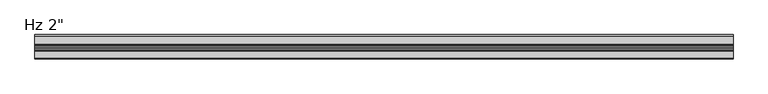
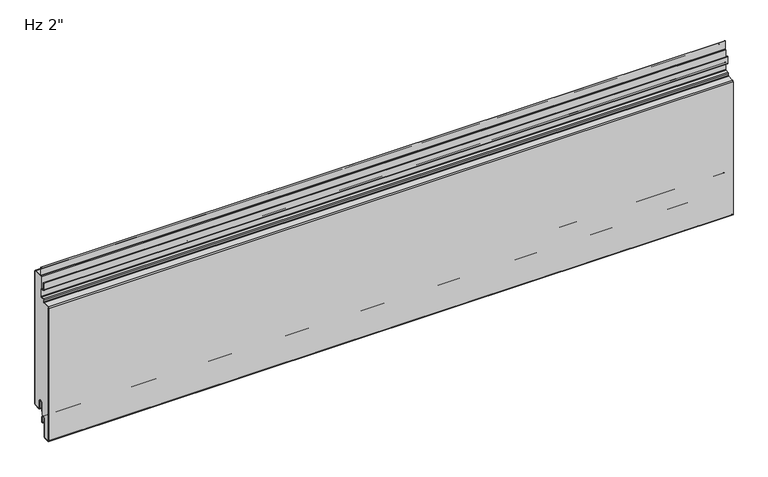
"""IFC4 building model written with IfcOpenShell, lengths in millimetres: plate geometry."""

from ifc_helpers import new_model, si_unit, point, frame, frame_2d, origin, place, context, project, spatial, polyline, circle_curve, ellipse_curve, trimmed, segment, composite_curve, outline, extrude, source, transform, mapped, element, save
from ifc_brep_helpers import plane_surface, cylinder_surface, revolved_surface, extruded_surface, advanced_brep


def plate_fc1f2779(model_context):
    return source(origin(), model_context, "Body", "SolidModel", [
        extrude(outline(composite_curve([segment(polyline([(-22.8125, 259.7620957), (-22.8125, 303.00625), (-2.38125, 303.00625)]), True, "CONTINUOUS"), segment(trimmed(circle_curve(frame_2d((-2.38125, 301.625)), 1.38125), [point((-2.38125, 303.00625))], [point((-1.0, 301.625))], False, "CARTESIAN"), True, "CONTINUOUS"), segment(polyline([(-1.0, 301.625), (-1.0, 3.175)]), True, "CONTINUOUS"), segment(trimmed(circle_curve(frame_2d((-2.38125, 3.175)), 1.38125), [point((-1.0, 3.175))], [point((-2.38125, 1.79375))], False, "CARTESIAN"), True, "CONTINUOUS"), segment(polyline([(-2.38125, 1.79375), (-15.08125, 1.79375)]), True, "CONTINUOUS"), segment(trimmed(circle_curve(frame_2d((-15.08125, 3.175)), 1.38125), [point((-15.08125, 1.79375))], [point((-16.4625, 3.175))], False, "CARTESIAN"), True, "CONTINUOUS"), segment(polyline([(-16.4625, 3.175), (-16.4625, 19.05)]), True, "CONTINUOUS"), segment(trimmed(circle_curve(frame_2d((-21.43125, 19.05)), 4.96875), [point((-16.4625, 19.05))], [point((-26.4, 19.05))], True, "CARTESIAN"), True, "CONTINUOUS"), segment(polyline([(-26.4, 19.05), (-26.4, -6.9375), (-30.95625, -6.9375)]), True, "CONTINUOUS"), segment(trimmed(circle_curve(frame_2d((-30.95625, -11.90625)), 4.96875), [point((-30.95625, -6.9375))], [point((-35.925, -11.90625))], True, "CARTESIAN"), True, "CONTINUOUS"), segment(polyline([(-35.925, -11.90625), (-35.925, -50.0895546)]), True, "CONTINUOUS"), segment(trimmed(circle_curve(frame_2d((-37.30625, -50.0895546)), 1.38125), [point((-35.925, -50.0895546))], [point((-37.233961, -51.4689117))], False, "CARTESIAN"), True, "CONTINUOUS"), segment(polyline([(-37.233961, -51.4689117), (-48.346461, -52.0512931)]), True, "CONTINUOUS"), segment(trimmed(circle_curve(frame_2d((-48.41875, -50.6719361)), 1.38125), [point((-48.346461, -52.0512931))], [point((-49.8, -50.6719361))], False, "CARTESIAN"), True, "CONTINUOUS"), segment(polyline([(-49.8, -50.6719361), (-49.8, 247.7572607)]), True, "CONTINUOUS"), segment(trimmed(circle_curve(frame_2d((-48.41875, 247.7572607)), 1.38125), [point((-49.8, 247.7572607))], [point((-48.491039, 249.1366177))], False, "CARTESIAN"), True, "CONTINUOUS"), segment(polyline([(-48.491039, 249.1366177), (-34.7895807, 249.8546807)]), True, "CONTINUOUS"), segment(trimmed(circle_curve(frame_2d((-34.925, 252.4386347)), 2.5875), [point((-34.7895807, 249.8546807))], [point((-32.3375, 252.4386347))], True, "CARTESIAN"), True, "CONTINUOUS"), segment(polyline([(-32.3375, 252.4386347), (-32.3375, 255.4967085)]), True, "CONTINUOUS"), segment(trimmed(circle_curve(frame_2d((-30.95625, 255.4967085)), 1.38125), [point((-32.3375, 255.4967085))], [point((-31.028539, 256.8760655))], False, "CARTESIAN"), True, "CONTINUOUS"), segment(polyline([(-31.028539, 256.8760655), (-25.2645807, 257.1781418)]), True, "CONTINUOUS"), segment(trimmed(circle_curve(frame_2d((-25.4, 259.7620957)), 2.5875), [point((-25.2645807, 257.1781418))], [point((-22.8125, 259.7620957))], True, "CARTESIAN"), True, "CONTINUOUS")], self_intersect=False)), frame((-730.0, 0.0, 0.0), z_axis=(1.0, 0.0, 0.0), x_axis=(0.0, 1.0, 0.0)), (0.0, 0.0, 1.0), 1460.0),
        extrude(outline(composite_curve([segment(polyline([(-25.4, 0.79375), (-26.4, 0.79375), (-26.4, 19.05)]), True, "CONTINUOUS"), segment(trimmed(circle_curve(frame_2d((-21.43125, 19.05)), 4.96875), [point((-26.4, 19.05))], [point((-16.4625, 19.05))], False, "CARTESIAN"), True, "CONTINUOUS"), segment(polyline([(-16.4625, 19.05), (-16.4625, 3.175)]), True, "CONTINUOUS"), segment(trimmed(circle_curve(frame_2d((-15.08125, 3.175)), 1.38125), [point((-16.4625, 3.175))], [point((-15.08125, 1.79375))], True, "CARTESIAN"), True, "CONTINUOUS"), segment(polyline([(-15.08125, 1.79375), (-2.38125, 1.79375)]), True, "CONTINUOUS"), segment(trimmed(circle_curve(frame_2d((-2.38125, 3.175)), 1.38125), [point((-2.38125, 1.79375))], [point((-1.0, 3.175))], True, "CARTESIAN"), True, "CONTINUOUS"), segment(polyline([(-1.0, 3.175), (-1.0, 301.625)]), True, "CONTINUOUS"), segment(trimmed(circle_curve(frame_2d((-2.38125, 301.625)), 1.38125), [point((-1.0, 301.625))], [point((-2.38125, 303.00625))], True, "CARTESIAN"), True, "CONTINUOUS"), segment(polyline([(-2.38125, 303.00625), (-19.446875, 303.00625)]), True, "CONTINUOUS"), segment(trimmed(circle_curve(frame_2d((-19.446875, 305.59375)), 2.5875), [point((-19.446875, 303.00625))], [point((-22.034375, 305.59375))], False, "CARTESIAN"), True, "CONTINUOUS"), segment(polyline([(-22.034375, 305.59375), (-22.034375, 323.05625), (-21.034375, 323.05625), (-21.034375, 305.59375)]), True, "CONTINUOUS"), segment(trimmed(circle_curve(frame_2d((-19.446875, 305.59375)), 1.5875), [point((-21.034375, 305.59375))], [point((-19.446875, 304.00625))], True, "CARTESIAN"), True, "CONTINUOUS"), segment(polyline([(-19.446875, 304.00625), (-2.38125, 304.00625)]), True, "CONTINUOUS"), segment(trimmed(circle_curve(frame_2d((-2.38125, 301.625)), 2.38125), [point((-2.38125, 304.00625))], [point((0.0, 301.625))], False, "CARTESIAN"), True, "CONTINUOUS"), segment(polyline([(0.0, 301.625), (0.0, 3.175)]), True, "CONTINUOUS"), segment(trimmed(circle_curve(frame_2d((-2.38125, 3.175)), 2.38125), [point((0.0, 3.175))], [point((-2.38125, 0.79375))], False, "CARTESIAN"), True, "CONTINUOUS"), segment(polyline([(-2.38125, 0.79375), (-15.08125, 0.79375)]), True, "CONTINUOUS"), segment(trimmed(circle_curve(frame_2d((-15.08125, 3.175)), 2.38125), [point((-15.08125, 0.79375))], [point((-17.4625, 3.175))], False, "CARTESIAN"), True, "CONTINUOUS"), segment(polyline([(-17.4625, 3.175), (-17.4625, 19.05)]), True, "CONTINUOUS"), segment(trimmed(circle_curve(frame_2d((-21.43125, 19.05)), 3.96875), [point((-17.4625, 19.05))], [point((-25.4, 19.05))], True, "CARTESIAN"), True, "CONTINUOUS"), segment(polyline([(-25.4, 19.05), (-25.4, 0.79375)]), True, "CONTINUOUS")], self_intersect=False)), frame((-730.0, 0.0, 0.0), z_axis=(1.0, 0.0, 0.0), x_axis=(0.0, 1.0, 0.0)), (0.0, 0.0, 1.0), 1460.0),
        advanced_brep(
        [(-730.0, -25.4, -23.2314549), (-730.0, -26.9875, -23.2314549), (-730.0, -26.9875, -11.9205174), (-730.0, -34.925, -11.9205174), (-730.0, -34.925, -50.1038221), (-730.0, -37.181625, -52.4818086), (-730.0, -48.294125, -53.0641901), (-730.0, -50.8, -50.6862035), (-730.0, -50.8, 247.7572607), (-730.0, -48.543375, 250.1352473), (-730.0, -34.8419167, 250.8533103), (-730.0, -33.3375, 252.4386347), (-730.0, -33.3375, 255.4824411), (-730.0, -31.080875, 257.8604276), (-730.0, -25.3169167, 258.1625039), (-730.0, -23.8125, 259.7478283), (-730.0, -23.8125, 274.6232326), (-730.0, -25.4, 276.2107326), (-730.0, -29.5671875, 276.2107326), (-730.0, -31.9484375, 278.5919826), (-730.0, -31.9484375, 293.0836032), (-730.0, -30.1546875, 293.0836032), (-730.0, -30.1546875, 283.3544826), (-730.0, -30.9484375, 283.3544826), (-730.0, -30.9484375, 278.5919826), (-730.0, -29.5671875, 277.2107326), (-730.0, -25.4, 277.2107326), (-730.0, -22.8125, 274.6232326), (-730.0, -22.8125, 259.7478283), (-730.0, -25.2645807, 257.1638744), (-730.0, -31.028539, 256.8617981), (-730.0, -32.3375, 255.4824411), (-730.0, -32.3375, 252.4386347), (-730.0, -34.7895807, 249.8546807), (-730.0, -48.491039, 249.1366177), (-730.0, -49.8, 247.7572607), (-730.0, -49.8, -50.6862035), (-730.0, -48.346461, -52.0655606), (-730.0, -37.233961, -51.4831791), (-730.0, -35.925, -50.1038221), (-730.0, -35.925, -11.9205174), (-730.0, -25.9875, -11.9205174), (-730.0, -26.19375, -13.5080174), (-730.0, -25.4, -13.5080174), (730.0, -25.4, -23.2314549), (730.0, -25.4, -13.5080174), (730.0, -26.19375, -13.5080174), (730.0, -25.9875, -11.9205174), (730.0, -35.925, -11.9205174), (730.0, -35.925, -50.1038221), (730.0, -37.233961, -51.4831791), (730.0, -48.346461, -52.0655606), (730.0, -49.8, -50.6862035), (730.0, -49.8, 247.7572607), (730.0, -48.491039, 249.1366177), (730.0, -34.7895807, 249.8546807), (730.0, -32.3375, 252.4386347), (730.0, -32.3375, 255.4824411), (730.0, -31.028539, 256.8617981), (730.0, -25.2645807, 257.1638744), (730.0, -22.8125, 259.7478283), (730.0, -22.8125, 274.6232326), (730.0, -25.4, 277.2107326), (730.0, -29.5671875, 277.2107326), (730.0, -30.9484375, 278.5919826), (730.0, -30.9484375, 283.3544826), (730.0, -30.1546875, 283.3544826), (730.0, -30.1546875, 293.0836032), (730.0, -31.9484375, 293.0836032), (730.0, -31.9484375, 278.5919826), (730.0, -29.5671875, 276.2107326), (730.0, -25.4, 276.2107326), (730.0, -23.8125, 274.6232326), (730.0, -23.8125, 259.7478283), (730.0, -25.3169167, 258.1625039), (730.0, -31.080875, 257.8604276), (730.0, -33.3375, 255.4824411), (730.0, -33.3375, 252.4386347), (730.0, -34.8419167, 250.8533103), (730.0, -48.543375, 250.1352473), (730.0, -50.8, 247.7572607), (730.0, -50.8, -50.6862035), (730.0, -48.294125, -53.0641901), (730.0, -37.181625, -52.4818086), (730.0, -34.925, -50.1038221), (730.0, -34.925, -11.9205174), (730.0, -26.9875, -11.9205174), (730.0, -26.9875, -23.2314549)],
        [
            (0, 1, circle_curve(frame((-730.0, -26.19375, -23.2314549), z_axis=(-1.0, 0.0, 0.0), x_axis=(0.0, 0.0, -1.0)), 0.79375)),
            (1, 2),
            (2, 3, circle_curve(frame((-730.0, -30.95625, -11.9205174), z_axis=(1.0, 0.0, 0.0), x_axis=(0.0, 0.0, -1.0)), 3.96875)),
            (3, 4),
            (4, 5, circle_curve(frame((-730.0, -37.30625, -50.1038221), z_axis=(-1.0, 0.0, 0.0), x_axis=(0.0, 0.0, -1.0)), 2.38125)),
            (5, 6),
            (6, 7, circle_curve(frame((-730.0, -48.41875, -50.6862035), z_axis=(-1.0, 0.0, 0.0), x_axis=(0.0, 0.0, -1.0)), 2.38125)),
            (7, 8),
            (8, 9, circle_curve(frame((-730.0, -48.41875, 247.7572607), z_axis=(-1.0, 0.0, 0.0), x_axis=(0.0, 0.0, -1.0)), 2.38125)),
            (9, 10),
            (10, 11, circle_curve(frame((-730.0, -34.925, 252.4386347), z_axis=(1.0, 0.0, 0.0), x_axis=(0.0, 0.0, -1.0)), 1.5875)),
            (11, 12),
            (12, 13, circle_curve(frame((-730.0, -30.95625, 255.4824411), z_axis=(-1.0, 0.0, 0.0), x_axis=(0.0, 0.0, -1.0)), 2.38125)),
            (13, 14),
            (14, 15, circle_curve(frame((-730.0, -25.4, 259.7478283), z_axis=(1.0, 0.0, 0.0), x_axis=(0.0, 0.0, -1.0)), 1.5875)),
            (15, 16),
            (16, 17, circle_curve(frame((-730.0, -25.4, 274.6232326), z_axis=(1.0, 0.0, 0.0), x_axis=(0.0, 0.0, -1.0)), 1.5875)),
            (17, 18),
            (18, 19, circle_curve(frame((-730.0, -29.5671875, 278.5919826), z_axis=(-1.0, 0.0, 0.0), x_axis=(0.0, 0.0, -1.0)), 2.38125)),
            (19, 20),
            (20, 21, ellipse_curve(frame((-730.0, -31.0515625, 293.0836032), z_axis=(-1.0, 0.0, 0.0), x_axis=(0.0, 1.0, 0.0)), 0.896875, 0.7852275)),
            (21, 22),
            (22, 23),
            (23, 24),
            (24, 25, circle_curve(frame((-730.0, -29.5671875, 278.5919826), z_axis=(1.0, 0.0, 0.0), x_axis=(0.0, 0.0, -1.0)), 1.38125)),
            (25, 26),
            (26, 27, circle_curve(frame((-730.0, -25.4, 274.6232326), z_axis=(-1.0, 0.0, 0.0), x_axis=(0.0, 0.0, -1.0)), 2.5875)),
            (27, 28),
            (28, 29, circle_curve(frame((-730.0, -25.4, 259.7478283), z_axis=(-1.0, 0.0, 0.0), x_axis=(0.0, 0.0, -1.0)), 2.5875)),
            (29, 30),
            (30, 31, circle_curve(frame((-730.0, -30.95625, 255.4824411), z_axis=(1.0, 0.0, 0.0), x_axis=(0.0, 0.0, -1.0)), 1.38125)),
            (31, 32),
            (32, 33, circle_curve(frame((-730.0, -34.925, 252.4386347), z_axis=(-1.0, 0.0, 0.0), x_axis=(0.0, 0.0, -1.0)), 2.5875)),
            (33, 34),
            (34, 35, circle_curve(frame((-730.0, -48.41875, 247.7572607), z_axis=(1.0, 0.0, 0.0), x_axis=(0.0, 0.0, -1.0)), 1.38125)),
            (35, 36),
            (36, 37, circle_curve(frame((-730.0, -48.41875, -50.6862035), z_axis=(1.0, 0.0, 0.0), x_axis=(0.0, 0.0, -1.0)), 1.38125)),
            (37, 38),
            (38, 39, circle_curve(frame((-730.0, -37.30625, -50.1038221), z_axis=(1.0, 0.0, 0.0), x_axis=(0.0, 0.0, -1.0)), 1.38125)),
            (39, 40),
            (40, 41, circle_curve(frame((-730.0, -30.95625, -11.9205174), z_axis=(-1.0, 0.0, 0.0), x_axis=(0.0, 0.0, -1.0)), 4.96875)),
            (41, 42),
            (42, 43),
            (43, 0),
            (44, 45),
            (45, 46),
            (46, 47),
            (47, 48, circle_curve(frame((730.0, -30.95625, -11.9205174), z_axis=(1.0, 0.0, 0.0), x_axis=(0.0, 0.0, -1.0)), 4.96875)),
            (48, 49),
            (49, 50, circle_curve(frame((730.0, -37.30625, -50.1038221), z_axis=(-1.0, 0.0, 0.0), x_axis=(0.0, 0.0, -1.0)), 1.38125)),
            (50, 51),
            (51, 52, circle_curve(frame((730.0, -48.41875, -50.6862035), z_axis=(-1.0, 0.0, 0.0), x_axis=(0.0, 0.0, -1.0)), 1.38125)),
            (52, 53),
            (53, 54, circle_curve(frame((730.0, -48.41875, 247.7572607), z_axis=(-1.0, 0.0, 0.0), x_axis=(0.0, 0.0, -1.0)), 1.38125)),
            (54, 55),
            (55, 56, circle_curve(frame((730.0, -34.925, 252.4386347), z_axis=(1.0, 0.0, 0.0), x_axis=(0.0, 0.0, -1.0)), 2.5875)),
            (56, 57),
            (57, 58, circle_curve(frame((730.0, -30.95625, 255.4824411), z_axis=(-1.0, 0.0, 0.0), x_axis=(0.0, 0.0, -1.0)), 1.38125)),
            (58, 59),
            (59, 60, circle_curve(frame((730.0, -25.4, 259.7478283), z_axis=(1.0, 0.0, 0.0), x_axis=(0.0, 0.0, -1.0)), 2.5875)),
            (60, 61),
            (61, 62, circle_curve(frame((730.0, -25.4, 274.6232326), z_axis=(1.0, 0.0, 0.0), x_axis=(0.0, 0.0, -1.0)), 2.5875)),
            (62, 63),
            (63, 64, circle_curve(frame((730.0, -29.5671875, 278.5919826), z_axis=(-1.0, 0.0, 0.0), x_axis=(0.0, 0.0, -1.0)), 1.38125)),
            (64, 65),
            (65, 66),
            (66, 67),
            (67, 68, ellipse_curve(frame((730.0, -31.0515625, 293.0836032), z_axis=(1.0, 0.0, 0.0), x_axis=(0.0, 1.0, 0.0)), 0.896875, 0.7852275)),
            (68, 69),
            (69, 70, circle_curve(frame((730.0, -29.5671875, 278.5919826), z_axis=(1.0, 0.0, 0.0), x_axis=(0.0, 0.0, -1.0)), 2.38125)),
            (70, 71),
            (71, 72, circle_curve(frame((730.0, -25.4, 274.6232326), z_axis=(-1.0, 0.0, 0.0), x_axis=(0.0, 0.0, -1.0)), 1.5875)),
            (72, 73),
            (73, 74, circle_curve(frame((730.0, -25.4, 259.7478283), z_axis=(-1.0, 0.0, 0.0), x_axis=(0.0, 0.0, -1.0)), 1.5875)),
            (74, 75),
            (75, 76, circle_curve(frame((730.0, -30.95625, 255.4824411), z_axis=(1.0, 0.0, 0.0), x_axis=(0.0, 0.0, -1.0)), 2.38125)),
            (76, 77),
            (77, 78, circle_curve(frame((730.0, -34.925, 252.4386347), z_axis=(-1.0, 0.0, 0.0), x_axis=(0.0, 0.0, -1.0)), 1.5875)),
            (78, 79),
            (79, 80, circle_curve(frame((730.0, -48.41875, 247.7572607), z_axis=(1.0, 0.0, 0.0), x_axis=(0.0, 0.0, -1.0)), 2.38125)),
            (80, 81),
            (81, 82, circle_curve(frame((730.0, -48.41875, -50.6862035), z_axis=(1.0, 0.0, 0.0), x_axis=(0.0, 0.0, -1.0)), 2.38125)),
            (82, 83),
            (83, 84, circle_curve(frame((730.0, -37.30625, -50.1038221), z_axis=(1.0, 0.0, 0.0), x_axis=(0.0, 0.0, -1.0)), 2.38125)),
            (84, 85),
            (85, 86, circle_curve(frame((730.0, -30.95625, -11.9205174), z_axis=(-1.0, 0.0, 0.0), x_axis=(0.0, 0.0, -1.0)), 3.96875)),
            (86, 87),
            (87, 44, circle_curve(frame((730.0, -26.19375, -23.2314549), z_axis=(1.0, 0.0, 0.0), x_axis=(0.0, 0.0, -1.0)), 0.79375)),
            (36, 52),
            (51, 37),
            (50, 38),
            (49, 39),
            (48, 40),
            (47, 41),
            (42, 46),
            (45, 43),
            (22, 66),
            (65, 23),
            (21, 67),
            (20, 68),
            (34, 54),
            (53, 35),
            (32, 56),
            (55, 33),
            (30, 58),
            (57, 31),
            (28, 60),
            (59, 29),
            (24, 64),
            (63, 25),
            (26, 62),
            (61, 27),
            (19, 69),
            (17, 71),
            (70, 18),
            (15, 73),
            (72, 16),
            (13, 75),
            (74, 14),
            (11, 77),
            (76, 12),
            (9, 79),
            (78, 10),
            (7, 81),
            (80, 8),
            (5, 83),
            (82, 6),
            (3, 85),
            (84, 4),
            (1, 87),
            (86, 2),
            (44, 0),
        ],
        [
            plane_surface(frame((-730.0, -50.8, 152.4), z_axis=(-1.0, 0.0, 0.0), x_axis=(0.0, -1.0, 0.0))),
            plane_surface(frame((730.0, -50.8, 152.4), z_axis=(1.0, 0.0, 0.0), x_axis=(0.0, -1.0, 0.0))),
            revolved_surface(polyline([(730.0, -48.41875, -52.0674535), (-730.0, -48.41875, -52.0674535)]), (-730.0, -48.41875, -50.6862035), (1.0, 0.0, 0.0)),
            plane_surface(frame((-730.0, -37.233961, -51.4831791), z_axis=(0.0, -0.05233595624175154, 0.9986295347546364), x_axis=(1.0, 0.0, 0.0))),
            revolved_surface(polyline([(730.0, -37.30625, -51.485072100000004), (-730.0, -37.30625, -51.485072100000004)]), (-730.0, -37.30625, -50.1038221), (1.0, 0.0, 0.0)),
            plane_surface(frame((-730.0, -35.925, -11.9205174), z_axis=(0.0, -1.0, 0.0), x_axis=(1.0, 0.0, 0.0))),
            cylinder_surface(frame((-730.0, -30.95625, -11.9205174), z_axis=(-1.0, 0.0, 0.0), x_axis=(0.0, 0.0, -1.0)), 4.96875),
            plane_surface(frame((-730.0, -25.4, -13.5080174), z_axis=(0.0, 0.0, 1.0), x_axis=(1.0, 0.0, 0.0))),
            plane_surface(frame((-730.0, -26.19375, -13.5080174), z_axis=(0.0, 0.9916655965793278, -0.12883844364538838), x_axis=(1.0, 0.0, 0.0))),
            plane_surface(frame((-730.0, -30.9484375, 283.3544826), z_axis=(0.0, 0.0, -1.0), x_axis=(1.0, 0.0, 0.0))),
            plane_surface(frame((-730.0, -30.1546875, 283.3544826), z_axis=(0.0, 1.0, 0.0), x_axis=(1.0, 0.0, 0.0))),
            extruded_surface(trimmed(ellipse_curve(frame((-730.0, -31.0515625, 293.0836032), z_axis=(1.0, 0.0, 0.0), x_axis=(0.0, 1.0, 0.0)), 0.896875, 0.7852275), [point((-730.0, -30.1546875, 293.0836032))], [point((-730.0, -31.9484375, 293.0836032))], True, "CARTESIAN"), (1460.0, 0.0, 0.0), 1460.0),
            revolved_surface(polyline([(730.0, -48.41875, 246.3760107), (-730.0, -48.41875, 246.3760107)]), (-730.0, -48.41875, 247.7572607), (1.0, 0.0, 0.0)),
            cylinder_surface(frame((-730.0, -34.925, 252.4386347), z_axis=(-1.0, 0.0, 0.0), x_axis=(0.0, 0.0, -1.0)), 2.5875),
            plane_surface(frame((-730.0, -48.491039, 249.1366177), z_axis=(0.0, 0.05233595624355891, -0.9986295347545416), x_axis=(1.0, 0.0, 0.0))),
            plane_surface(frame((-730.0, -49.8, -50.6862035), z_axis=(0.0, 1.0, 0.0), x_axis=(1.0, 0.0, 0.0))),
            revolved_surface(polyline([(730.0, -30.95625, 254.1011911), (-730.0, -30.95625, 254.1011911)]), (-730.0, -30.95625, 255.4824411), (1.0, 0.0, 0.0)),
            cylinder_surface(frame((-730.0, -25.4, 259.7478283), z_axis=(-1.0, 0.0, 0.0), x_axis=(0.0, 0.0, -1.0)), 2.5875),
            plane_surface(frame((-730.0, -31.028539, 256.8617981), z_axis=(0.0, 0.052335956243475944, -0.9986295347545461), x_axis=(1.0, 0.0, 0.0))),
            plane_surface(frame((-730.0, -32.3375, 252.4386347), z_axis=(0.0, 1.0, 0.0), x_axis=(1.0, 0.0, 0.0))),
            revolved_surface(polyline([(730.0, -29.5671875, 277.2107326), (-730.0, -29.5671875, 277.2107326)]), (-730.0, -29.5671875, 278.5919826), (1.0, 0.0, 0.0)),
            cylinder_surface(frame((-730.0, -25.4, 274.6232326), z_axis=(-1.0, 0.0, 0.0), x_axis=(0.0, 0.0, -1.0)), 2.5875),
            plane_surface(frame((-730.0, -25.4, 277.2107326), z_axis=(0.0, 0.0, 1.0), x_axis=(1.0, 0.0, 0.0))),
            plane_surface(frame((-730.0, -30.9484375, 278.5919826), z_axis=(0.0, 1.0, 0.0), x_axis=(1.0, 0.0, 0.0))),
            plane_surface(frame((-730.0, -31.9484375, 293.0836032), z_axis=(0.0, -1.0, 0.0), x_axis=(1.0, 0.0, 0.0))),
            plane_surface(frame((-730.0, -29.5671875, 276.2107326), z_axis=(0.0, 0.0, -1.0), x_axis=(1.0, 0.0, 0.0))),
            cylinder_surface(frame((-730.0, -29.5671875, 278.5919826), z_axis=(-1.0, 0.0, 0.0), x_axis=(0.0, 0.0, -1.0)), 2.38125),
            plane_surface(frame((-730.0, -22.8125, 259.7478283), z_axis=(0.0, 1.0, 0.0), x_axis=(1.0, 0.0, 0.0))),
            plane_surface(frame((-730.0, -23.8125, 274.6232326), z_axis=(0.0, -1.0, 0.0), x_axis=(1.0, 0.0, 0.0))),
            plane_surface(frame((-730.0, -25.3169167, 258.1625039), z_axis=(0.0, -0.05233595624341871, 0.9986295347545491), x_axis=(1.0, 0.0, 0.0))),
            revolved_surface(polyline([(730.0, -25.4, 258.1603283), (-730.0, -25.4, 258.1603283)]), (-730.0, -25.4, 259.7478283), (1.0, 0.0, 0.0)),
            revolved_surface(polyline([(730.0, -25.4, 273.0357326), (-730.0, -25.4, 273.0357326)]), (-730.0, -25.4, 274.6232326), (1.0, 0.0, 0.0)),
            plane_surface(frame((-730.0, -33.3375, 255.4824411), z_axis=(0.0, -1.0, 0.0), x_axis=(1.0, 0.0, 0.0))),
            plane_surface(frame((-730.0, -34.8419167, 250.8533103), z_axis=(0.0, -0.05233595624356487, 0.9986295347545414), x_axis=(1.0, 0.0, 0.0))),
            revolved_surface(polyline([(730.0, -34.925, 250.8511347), (-730.0, -34.925, 250.8511347)]), (-730.0, -34.925, 252.4386347), (1.0, 0.0, 0.0)),
            cylinder_surface(frame((-730.0, -30.95625, 255.4824411), z_axis=(-1.0, 0.0, 0.0), x_axis=(0.0, 0.0, -1.0)), 2.38125),
            plane_surface(frame((-730.0, -50.8, 247.7572607), z_axis=(0.0, -1.0, 0.0), x_axis=(1.0, 0.0, 0.0))),
            plane_surface(frame((-730.0, -48.294125, -53.0641901), z_axis=(0.0, 0.05233595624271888, -0.9986295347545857), x_axis=(1.0, 0.0, 0.0))),
            cylinder_surface(frame((-730.0, -48.41875, -50.6862035), z_axis=(-1.0, 0.0, 0.0), x_axis=(0.0, 0.0, -1.0)), 2.38125),
            cylinder_surface(frame((-730.0, -48.41875, 247.7572607), z_axis=(-1.0, 0.0, 0.0), x_axis=(0.0, 0.0, -1.0)), 2.38125),
            plane_surface(frame((-730.0, -34.925, -50.1038221), z_axis=(0.0, 1.0, 0.0), x_axis=(1.0, 0.0, 0.0))),
            plane_surface(frame((-730.0, -26.9875, -11.9205174), z_axis=(0.0, -1.0, 0.0), x_axis=(1.0, 0.0, 0.0))),
            revolved_surface(polyline([(730.0, -30.95625, -15.8892674), (-730.0, -30.95625, -15.8892674)]), (-730.0, -30.95625, -11.9205174), (1.0, 0.0, 0.0)),
            cylinder_surface(frame((-730.0, -37.30625, -50.1038221), z_axis=(-1.0, 0.0, 0.0), x_axis=(0.0, 0.0, -1.0)), 2.38125),
            plane_surface(frame((-730.0, -25.4, -23.2314549), z_axis=(0.0, 1.0, 0.0), x_axis=(1.0, 0.0, 0.0))),
            cylinder_surface(frame((-730.0, -26.19375, -23.2314549), z_axis=(-1.0, 0.0, 0.0), x_axis=(0.0, 0.0, -1.0)), 0.79375),
        ],
        [
            (0, [[1, 2, 3, 4, 5, 6, 7, 8, 9, 10, 11, 12, 13, 14, 15, 16, 17, 18, 19, 20, 21, 22, 23, 24, 25, 26, 27, 28, 29, 30, 31, 32, 33, 34, 35, 36, 37, 38, 39, 40, 41, 42, 43, 44]]),
            (1, [[45, 46, 47, 48, 49, 50, 51, 52, 53, 54, 55, 56, 57, 58, 59, 60, 61, 62, 63, 64, 65, 66, 67, 68, 69, 70, 71, 72, 73, 74, 75, 76, 77, 78, 79, 80, 81, 82, 83, 84, 85, 86, 87, 88]]),
            (2, [[89, -52, 90, -37]]),
            (3, [[-90, -51, 91, -38]]),
            (4, [[-91, -50, 92, -39]]),
            (5, [[-92, -49, 93, -40]]),
            (6, [[-93, -48, 94, -41]]),
            (7, [[95, -46, 96, -43]]),
            (8, [[-94, -47, -95, -42]]),
            (9, [[97, -66, 98, -23]]),
            (10, [[99, -67, -97, -22]]),
            (11, [[100, -68, -99, -21]]),
            (12, [[101, -54, 102, -35]]),
            (13, [[103, -56, 104, -33]]),
            (14, [[-104, -55, -101, -34]]),
            (15, [[-102, -53, -89, -36]]),
            (16, [[105, -58, 106, -31]]),
            (17, [[107, -60, 108, -29]]),
            (18, [[-108, -59, -105, -30]]),
            (19, [[-106, -57, -103, -32]]),
            (20, [[109, -64, 110, -25]]),
            (21, [[111, -62, 112, -27]]),
            (22, [[-110, -63, -111, -26]]),
            (23, [[-98, -65, -109, -24]]),
            (24, [[113, -69, -100, -20]]),
            (25, [[114, -71, 115, -18]]),
            (26, [[-115, -70, -113, -19]]),
            (27, [[-112, -61, -107, -28]]),
            (28, [[116, -73, 117, -16]]),
            (29, [[118, -75, 119, -14]]),
            (30, [[-119, -74, -116, -15]]),
            (31, [[-117, -72, -114, -17]]),
            (32, [[120, -77, 121, -12]]),
            (33, [[122, -79, 123, -10]]),
            (34, [[-123, -78, -120, -11]]),
            (35, [[-121, -76, -118, -13]]),
            (36, [[124, -81, 125, -8]]),
            (37, [[126, -83, 127, -6]]),
            (38, [[-127, -82, -124, -7]]),
            (39, [[-125, -80, -122, -9]]),
            (40, [[128, -85, 129, -4]]),
            (41, [[130, -87, 131, -2]]),
            (42, [[-131, -86, -128, -3]]),
            (43, [[-129, -84, -126, -5]]),
            (44, [[-96, -45, 132, -44]]),
            (45, [[-132, -88, -130, -1]]),
        ],
    ),
    ])


if __name__ == "__main__":
    model = new_model("IFC4")
    model_context = context("Model", 3, world=origin())
    ifc_project = project(units=[si_unit("LENGTHUNIT", "METRE", prefix="MILLI")], contexts=[model_context])
    site = spatial("IfcSite", under=ifc_project)
    building = spatial("IfcBuilding", under=site)
    placement = place(None, origin())
    plate_shape = plate_fc1f2779(model_context)
    element("IfcPlate", 1, ObjectType="KIP-12-DWTR-R19-CP-Hz-F : Hz 2\"", at=placement, inside=building, context=model_context, shape_type="MappedRepresentation", body=[
        mapped(plate_shape, transform((0.0, 0.0, 0.0), x_axis=(1.0, 0.0, 0.0), y_axis=(0.0, 1.0, 0.0), z_axis=(0.0, 0.0, 1.0))),
    ])
    save(model, "model.ifc")
